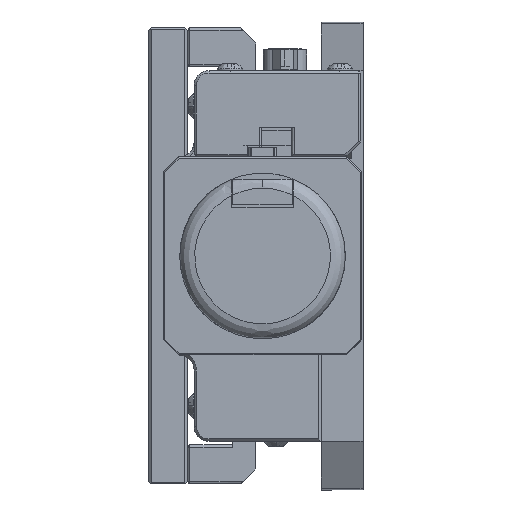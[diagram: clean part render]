
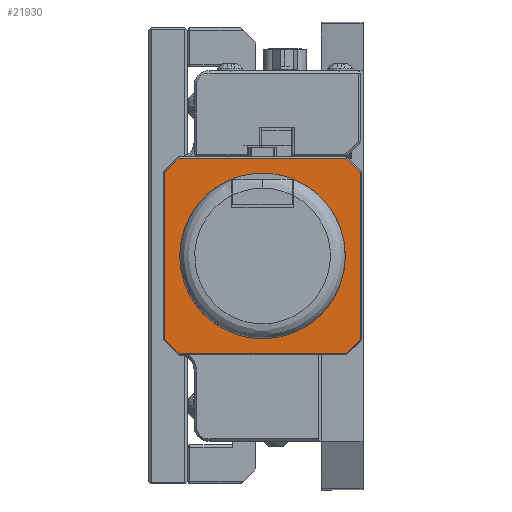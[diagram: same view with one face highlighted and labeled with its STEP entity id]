
A CAD part, left-side view. The second image highlights one B-rep face of the part: STEP entity #21930.
In plain terms, the highlighted planar face has unit normal (-1, 0, 0).
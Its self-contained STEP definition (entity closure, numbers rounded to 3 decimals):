
#1134 = DIRECTION ( 'NONE',  ( 0., 0.707, -0.707 ) ) ;
#1584 = CARTESIAN_POINT ( 'NONE',  ( -120.65, -18.87, 10.127 ) ) ;
#3272 = ORIENTED_EDGE ( 'NONE', *, *, #22729, .F. ) ;
#3718 = VECTOR ( 'NONE', #44858, 1000. ) ;
#5981 = FACE_OUTER_BOUND ( 'NONE', #73094, .T. ) ;
#6048 = LINE ( 'NONE', #66819, #57044 ) ;
#6186 = VERTEX_POINT ( 'NONE', #85693 ) ;
#7998 = CARTESIAN_POINT ( 'NONE',  ( -120.65, 0.571, -9.315 ) ) ;
#8855 = VECTOR ( 'NONE', #63282, 1000. ) ;
#9228 = VECTOR ( 'NONE', #85098, 1000. ) ;
#12128 = CARTESIAN_POINT ( 'NONE',  ( -120.65, 0.571, 26.035 ) ) ;
#12259 = LINE ( 'NONE', #1584, #81219 ) ;
#12341 = LINE ( 'NONE', #23530, #65344 ) ;
#12649 = ORIENTED_EDGE ( 'NONE', *, *, #23129, .F. ) ;
#16723 = LINE ( 'NONE', #40871, #49930 ) ;
#17857 = DIRECTION ( 'NONE',  ( 0., -1., 0. ) ) ;
#18443 = CARTESIAN_POINT ( 'NONE',  ( -120.65, 0.317, 29.061 ) ) ;
#19120 = ORIENTED_EDGE ( 'NONE', *, *, #24347, .F. ) ;
#21912 = CARTESIAN_POINT ( 'NONE',  ( -120.65, 3.598, -12.341 ) ) ;
#21930 = ADVANCED_FACE ( 'NONE', ( #5981 ), #64232, .T. ) ;
#22729 = EDGE_CURVE ( 'NONE', #33500, #54329, #12341, .T. ) ;
#23129 = EDGE_CURVE ( 'NONE', #54329, #48190, #12259, .T. ) ;
#23530 = CARTESIAN_POINT ( 'NONE',  ( -120.65, 0.571, 29.315 ) ) ;
#24293 = ORIENTED_EDGE ( 'NONE', *, *, #28392, .F. ) ;
#24310 = DIRECTION ( 'NONE',  ( 0., 0., -1. ) ) ;
#24347 = EDGE_CURVE ( 'NONE', #48190, #6186, #27647, .T. ) ;
#24993 = EDGE_CURVE ( 'NONE', #6186, #82838, #44064, .T. ) ;
#26702 = ORIENTED_EDGE ( 'NONE', *, *, #26784, .F. ) ;
#26784 = EDGE_CURVE ( 'NONE', #37356, #33500, #16723, .T. ) ;
#26802 = ORIENTED_EDGE ( 'NONE', *, *, #24993, .F. ) ;
#27157 = EDGE_CURVE ( 'NONE', #64994, #37356, #71885, .T. ) ;
#27647 = LINE ( 'NONE', #40029, #3718 ) ;
#28055 = EDGE_CURVE ( 'NONE', #70110, #64994, #80339, .T. ) ;
#28392 = EDGE_CURVE ( 'NONE', #82838, #70110, #6048, .T. ) ;
#29436 = AXIS2_PLACEMENT_3D ( 'NONE', #65207, #63572, #63558 ) ;
#31609 = CARTESIAN_POINT ( 'NONE',  ( -120.65, 3.598, 29.061 ) ) ;
#33500 = VERTEX_POINT ( 'NONE', #12128 ) ;
#34490 = CARTESIAN_POINT ( 'NONE',  ( -120.65, 41.973, -9.315 ) ) ;
#34762 = ORIENTED_EDGE ( 'NONE', *, *, #28055, .F. ) ;
#37356 = VERTEX_POINT ( 'NONE', #31609 ) ;
#39718 = DIRECTION ( 'NONE',  ( 0., -0.707, -0.707 ) ) ;
#40029 = CARTESIAN_POINT ( 'NONE',  ( -120.65, 0.317, -12.341 ) ) ;
#40871 = CARTESIAN_POINT ( 'NONE',  ( -120.65, 2.085, 27.548 ) ) ;
#44064 = LINE ( 'NONE', #64892, #8855 ) ;
#44383 = ORIENTED_EDGE ( 'NONE', *, *, #27157, .F. ) ;
#44858 = DIRECTION ( 'NONE',  ( 0., 1., 0. ) ) ;
#48190 = VERTEX_POINT ( 'NONE', #21912 ) ;
#49930 = VECTOR ( 'NONE', #39718, 1000. ) ;
#54128 = VECTOR ( 'NONE', #17857, 1000. ) ;
#54329 = VERTEX_POINT ( 'NONE', #7998 ) ;
#57044 = VECTOR ( 'NONE', #66905, 1000. ) ;
#63282 = DIRECTION ( 'NONE',  ( 0., 0.707, 0.707 ) ) ;
#63558 = DIRECTION ( 'NONE',  ( 0., 0., 1. ) ) ;
#63572 = DIRECTION ( 'NONE',  ( -1., 0., 0. ) ) ;
#64232 = PLANE ( 'NONE',  #29436 ) ;
#64892 = CARTESIAN_POINT ( 'NONE',  ( -120.65, 40.46, -10.828 ) ) ;
#64994 = VERTEX_POINT ( 'NONE', #81512 ) ;
#65207 = CARTESIAN_POINT ( 'NONE',  ( -120.65, 0.317, 29.315 ) ) ;
#65344 = VECTOR ( 'NONE', #24310, 1000. ) ;
#66819 = CARTESIAN_POINT ( 'NONE',  ( -120.65, 41.973, -12.595 ) ) ;
#66905 = DIRECTION ( 'NONE',  ( 0., 0., 1. ) ) ;
#70110 = VERTEX_POINT ( 'NONE', #84197 ) ;
#71885 = LINE ( 'NONE', #18443, #54128 ) ;
#73094 = EDGE_LOOP ( 'NONE', ( #26802, #19120, #12649, #3272, #26702, #44383, #34762, #24293 ) ) ;
#80339 = LINE ( 'NONE', #83324, #9228 ) ;
#81219 = VECTOR ( 'NONE', #1134, 1000. ) ;
#81512 = CARTESIAN_POINT ( 'NONE',  ( -120.65, 38.947, 29.061 ) ) ;
#82838 = VERTEX_POINT ( 'NONE', #34490 ) ;
#83324 = CARTESIAN_POINT ( 'NONE',  ( -120.65, 19.505, 48.503 ) ) ;
#84197 = CARTESIAN_POINT ( 'NONE',  ( -120.65, 41.973, 26.035 ) ) ;
#85098 = DIRECTION ( 'NONE',  ( 0., -0.707, 0.707 ) ) ;
#85693 = CARTESIAN_POINT ( 'NONE',  ( -120.65, 38.947, -12.341 ) ) ;
